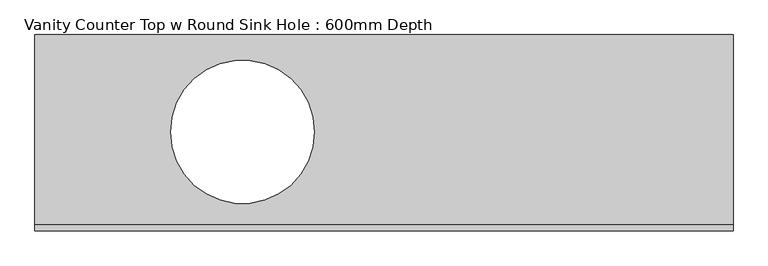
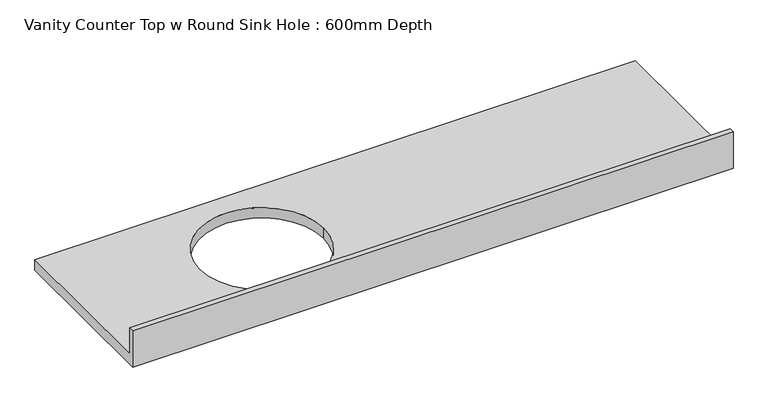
"""IFC4 building model written with IfcOpenShell, lengths in millimetres: furniture geometry, Vanity Counter Top w Round Sink Hole : 600mm Depth."""

from ifc_helpers import new_model, si_unit, frame, origin, place, context, project, spatial, polyline, circle_curve, source, transform, mapped, element, save
from ifc_brep_helpers import plane_surface, revolved_surface, advanced_brep


def vanity_counter_top_w_round_sink_hole_600mm_depth_e5f633f1(model_context):
    return source(origin(), model_context, "Body", "AdvancedBrep", [
        advanced_brep(
        [(-1327.4622951, 0.0, 851.6), (892.5377049, 0.0, 851.6), (892.5377049, 19.05, 851.6), (-1327.4622951, 19.05, 851.6), (-1327.4622951, 19.05, 750.0), (-1327.4622951, 625.0, 750.0), (-1327.4622951, 625.0, 710.0), (-1327.4622951, 0.0, 710.0), (892.5377049, 19.05, 750.0), (892.5377049, 0.0, 710.0), (892.5377049, 625.0, 710.0), (892.5377049, 625.0, 750.0), (-438.7622951, 316.0, 750.0), (-896.1622951, 316.0, 750.0), (-896.1622951, 316.0, 710.0), (-438.7622951, 316.0, 710.0)],
        [
            (0, 1),
            (1, 2),
            (2, 3),
            (3, 0),
            (3, 4),
            (4, 5),
            (5, 6),
            (6, 7),
            (7, 0),
            (2, 8),
            (8, 4),
            (1, 9),
            (9, 10),
            (10, 11),
            (11, 8),
            (7, 9),
            (12, 13, circle_curve(frame((-667.4622951, 316.0, 750.0), z_axis=(0.0, 0.0, 1.0), x_axis=(1.0, 0.0, 0.0)), 228.7)),
            (13, 14),
            (14, 15, circle_curve(frame((-667.4622951, 316.0, 710.0), z_axis=(0.0, 0.0, -1.0), x_axis=(1.0, 0.0, 0.0)), 228.7)),
            (15, 12),
            (15, 14, circle_curve(frame((-667.4622951, 316.0, 710.0), z_axis=(0.0, 0.0, -1.0), x_axis=(1.0, 0.0, 0.0)), 228.7)),
            (13, 12, circle_curve(frame((-667.4622951, 316.0, 750.0), z_axis=(0.0, 0.0, 1.0), x_axis=(1.0, 0.0, 0.0)), 228.7)),
            (11, 5),
            (6, 10),
        ],
        [
            plane_surface(frame((-1327.4622951, 0.0, 851.6), z_axis=(0.0, 0.0, 1.0), x_axis=(0.0, 1.0, 0.0))),
            plane_surface(frame((-1327.4622951, 0.0, 851.6), z_axis=(-1.0, 0.0, 0.0), x_axis=(0.0, 0.0, -1.0))),
            plane_surface(frame((-1327.4622951, 19.05, 851.6), z_axis=(0.0, 1.0, 0.0), x_axis=(0.0, 0.0, -1.0))),
            plane_surface(frame((892.5377049, 19.05, 851.6), z_axis=(1.0, 0.0, 0.0), x_axis=(0.0, 0.0, -1.0))),
            plane_surface(frame((892.5377049, 0.0, 851.6), z_axis=(0.0, -1.0, 0.0), x_axis=(0.0, 0.0, -1.0))),
            revolved_surface(polyline([(-438.7622951, 316.0, 750.0), (-438.7622951, 316.0, 710.0)]), (-667.4622951, 316.0, 710.0), (0.0, 0.0, 1.0)),
            plane_surface(frame((-1327.4622951, 0.0, 750.0), z_axis=(0.0, 0.0, 1.0), x_axis=(-1.0, 0.0, 0.0))),
            plane_surface(frame((-1327.4622951, 0.0, 710.0), z_axis=(0.0, 0.0, -1.0), x_axis=(1.0, 0.0, 0.0))),
            plane_surface(frame((-1327.4622951, 625.0, 750.0), z_axis=(0.0, 1.0, 0.0), x_axis=(0.0, 0.0, -1.0))),
        ],
        [
            (0, [[1, 2, 3, 4]]),
            (1, [[5, 6, 7, 8, 9, -4]]),
            (2, [[10, 11, -5, -3]]),
            (3, [[12, 13, 14, 15, -10, -2]]),
            (4, [[-9, 16, -12, -1]]),
            (5, [[17, 18, 19, 20]]),
            (5, [[21, -18, 22, -20]]),
            (6, [[-6, -11, -15, 23], [-22, -17]]),
            (7, [[-16, -8, 24, -13], [-21, -19]]),
            (8, [[-14, -24, -7, -23]]),
        ],
    ),
    ])


if __name__ == "__main__":
    model = new_model("IFC4")
    model_context = context("Model", 3, world=origin())
    ifc_project = project(units=[si_unit("LENGTHUNIT", "METRE", prefix="MILLI")], contexts=[model_context])
    site = spatial("IfcSite", under=ifc_project)
    building = spatial("IfcBuilding", under=site)
    placement = place(None, origin())
    vanity_counter_top_w_round_sink_hole_600mm_depth_shape = vanity_counter_top_w_round_sink_hole_600mm_depth_e5f633f1(model_context)
    element("IfcFurniture", 1, ObjectType="Vanity Counter Top w Round Sink Hole : 600mm Depth", at=placement, inside=building, context=model_context, shape_type="MappedRepresentation", body=[
        mapped(vanity_counter_top_w_round_sink_hole_600mm_depth_shape, transform((0.0, 0.0, 0.0), x_axis=(1.0, 0.0, 0.0), y_axis=(0.0, 1.0, 0.0), z_axis=(0.0, 0.0, 1.0))),
    ])
    save(model, "model.ifc")
